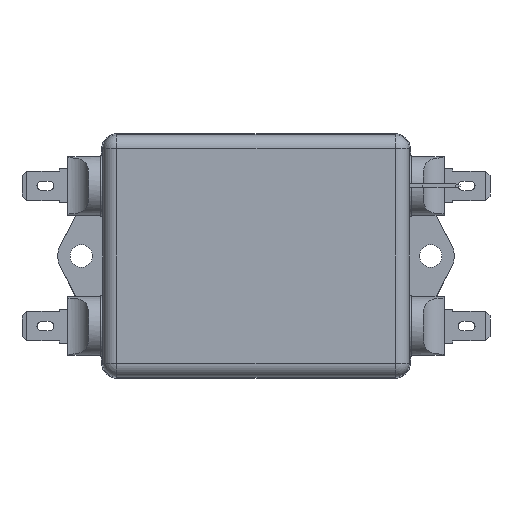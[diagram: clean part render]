
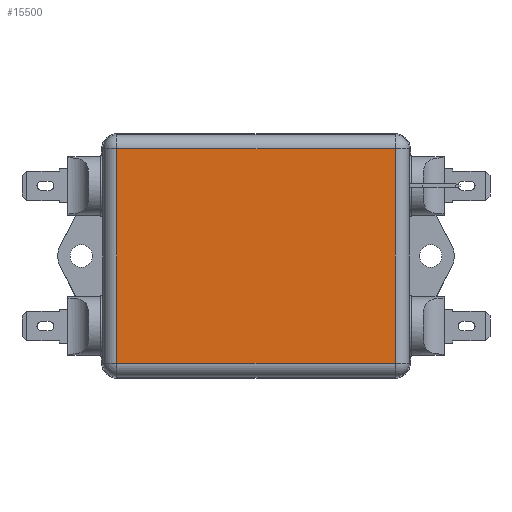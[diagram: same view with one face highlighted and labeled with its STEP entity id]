
A CAD part, front view. The second image highlights one B-rep face of the part: STEP entity #15500.
In plain terms, the highlighted planar face has unit normal (0, -1, 0).
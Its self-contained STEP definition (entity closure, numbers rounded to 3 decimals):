
#692 = EDGE_CURVE ( 'NONE', #15349, #7503, #8213, .T. ) ;
#1300 = CARTESIAN_POINT ( 'NONE',  ( -29.75, -38.6, 22.9 ) ) ;
#1430 = ORIENTED_EDGE ( 'NONE', *, *, #6484, .T. ) ;
#1749 = FACE_OUTER_BOUND ( 'NONE', #18351, .T. ) ;
#2778 = AXIS2_PLACEMENT_3D ( 'NONE', #18684, #8933, #20324 ) ;
#2934 = VECTOR ( 'NONE', #11316, 1000. ) ;
#3037 = CARTESIAN_POINT ( 'NONE',  ( 29.75, -38.6, -22.9 ) ) ;
#4758 = VERTEX_POINT ( 'NONE', #1300 ) ;
#6346 = CARTESIAN_POINT ( 'NONE',  ( -29.75, -38.6, 22.9 ) ) ;
#6347 = CARTESIAN_POINT ( 'NONE',  ( 29.75, -38.6, -22.9 ) ) ;
#6484 = EDGE_CURVE ( 'NONE', #4758, #12180, #20933, .T. ) ;
#6875 = EDGE_CURVE ( 'NONE', #12180, #15349, #12739, .T. ) ;
#7011 = CARTESIAN_POINT ( 'NONE',  ( -29.75, -38.6, -22.9 ) ) ;
#7200 = VECTOR ( 'NONE', #12279, 1000. ) ;
#7503 = VERTEX_POINT ( 'NONE', #18771 ) ;
#8213 = LINE ( 'NONE', #6347, #7200 ) ;
#8933 = DIRECTION ( 'NONE',  ( 0., 1., 0. ) ) ;
#8946 = EDGE_CURVE ( 'NONE', #7503, #4758, #20179, .T. ) ;
#9275 = ORIENTED_EDGE ( 'NONE', *, *, #6875, .T. ) ;
#10511 = PLANE ( 'NONE',  #2778 ) ;
#11316 = DIRECTION ( 'NONE',  ( -1., 0., 0. ) ) ;
#12180 = VERTEX_POINT ( 'NONE', #7011 ) ;
#12213 = VECTOR ( 'NONE', #14057, 1000. ) ;
#12279 = DIRECTION ( 'NONE',  ( 0., 0., 1. ) ) ;
#12305 = ORIENTED_EDGE ( 'NONE', *, *, #8946, .T. ) ;
#12739 = LINE ( 'NONE', #18870, #12213 ) ;
#14057 = DIRECTION ( 'NONE',  ( 1., 0., 0. ) ) ;
#15349 = VERTEX_POINT ( 'NONE', #3037 ) ;
#15500 = ADVANCED_FACE ( 'NONE', ( #1749 ), #10511, .F. ) ;
#16079 = VECTOR ( 'NONE', #17716, 1000. ) ;
#17716 = DIRECTION ( 'NONE',  ( 0., 0., -1. ) ) ;
#17796 = CARTESIAN_POINT ( 'NONE',  ( 29.75, -38.6, 22.9 ) ) ;
#18351 = EDGE_LOOP ( 'NONE', ( #1430, #9275, #21025, #12305 ) ) ;
#18684 = CARTESIAN_POINT ( 'NONE',  ( 0., -38.6, 0. ) ) ;
#18771 = CARTESIAN_POINT ( 'NONE',  ( 29.75, -38.6, 22.9 ) ) ;
#18870 = CARTESIAN_POINT ( 'NONE',  ( -29.75, -38.6, -22.9 ) ) ;
#20179 = LINE ( 'NONE', #17796, #2934 ) ;
#20324 = DIRECTION ( 'NONE',  ( 1., 0., 0. ) ) ;
#20933 = LINE ( 'NONE', #6346, #16079 ) ;
#21025 = ORIENTED_EDGE ( 'NONE', *, *, #692, .T. ) ;
